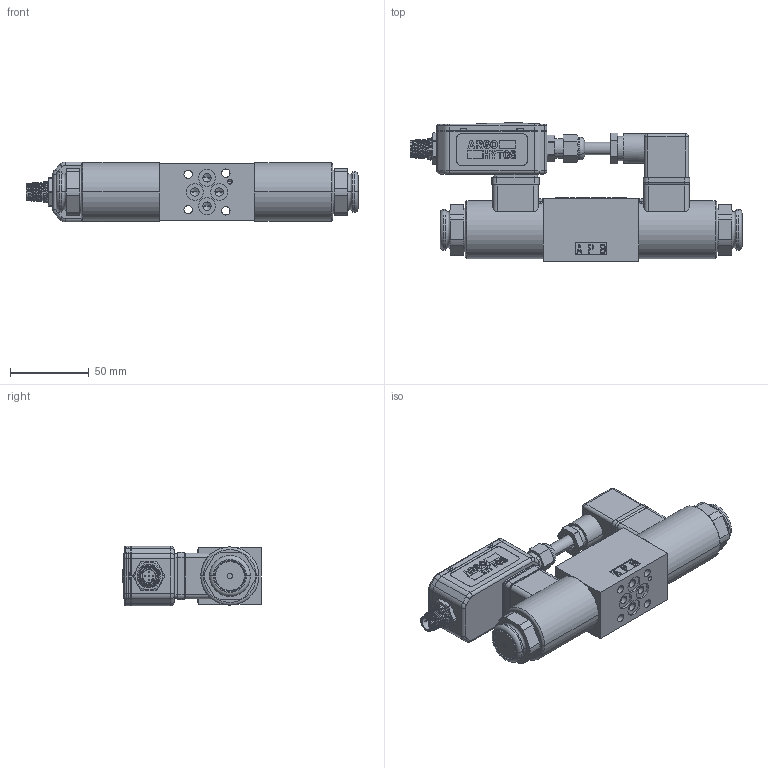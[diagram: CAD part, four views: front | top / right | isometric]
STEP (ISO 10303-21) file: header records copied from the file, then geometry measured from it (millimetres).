
FILE_DESCRIPTION((''),'2;1');
FILE_NAME('PRM4-02_EL7_ASM','2021-07-07T',('l.soukupova'),(''),'PRO/ENGINEER BY PARAMETRIC TECHNOLOGY CORPORATION, 2015440','PRO/ENGINEER BY PARAMETRIC TECHNOLOGY CORPORATION, 2015440','');
FILE_SCHEMA(('AUTOMOTIVE_DESIGN { 1 0 10303 214 1 1 1 1 }'));
Products named in the file (8): RPE3_043Z11_RD_AF0; C19B_E1; RPE3_043Z16_158705_AF0_ASM; 1000299723; 1000299724; 1000299725; 1000299726_ASM; PRM4-02_EL7_ASM
Assembly tree (8 placements, depth 3):
  PRM4-02_EL7_ASM
    RPE3_043Z16_158705_AF0_ASM
      RPE3_043Z11_RD_AF0
      C19B_E1  x2
    1000299726_ASM
      1000299723
      1000299724
      1000299725
Bounding box: 211.1 x 88.15 x 38 mm (x, y, z)
Volume: 230703.2 mm3; surface area: 94141.5 mm2
Topology: 5 solids, 8 shells, 2743 faces, 7340 edges, 4757 vertices
Faces by surface type: plane 1144, cylinder 748, bspline 299, extrusion 233, torus 150, cone 108, sphere 61
Entity records: 175402 total; most frequent: CARTESIAN_POINT 59132, ORIENTED_EDGE 14090, DIRECTION 11880, PRESENTATION_STYLE_ASSIGNMENT 9866, STYLED_ITEM 9731, CURVE_STYLE 7345, EDGE_CURVE 7048, FILL_AREA_STYLE_COLOUR 4995
